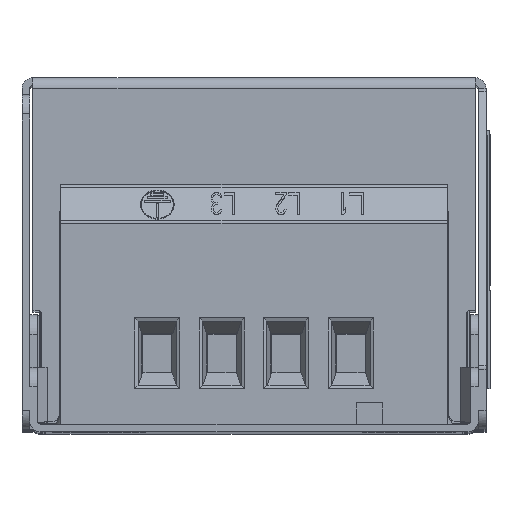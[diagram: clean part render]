
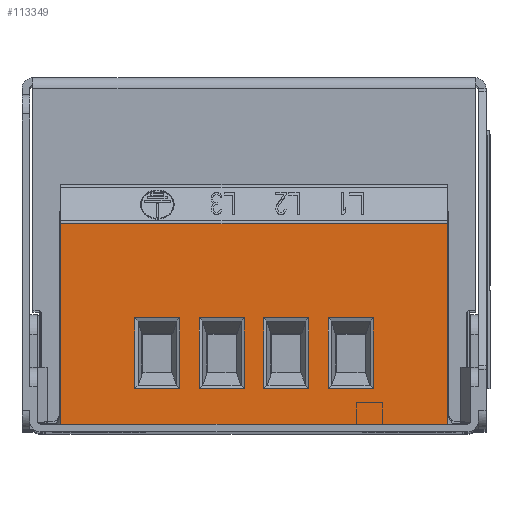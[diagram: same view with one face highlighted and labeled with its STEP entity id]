
A CAD part, top view. The second image highlights one B-rep face of the part: STEP entity #113349.
In plain terms, the highlighted planar face has unit normal (0, 0, 1).
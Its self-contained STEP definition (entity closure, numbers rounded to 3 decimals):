
#32683=DIRECTION('',(0.,-1.,0.));
#32684=VECTOR('',#32683,31.126);
#32685=CARTESIAN_POINT('',(30.,-21.474,76.4));
#32686=LINE('',#32685,#32684);
#32687=DIRECTION('',(-1.,0.,0.));
#32688=VECTOR('',#32687,60.);
#32689=CARTESIAN_POINT('',(30.,-52.6,76.4));
#32690=LINE('',#32689,#32688);
#32691=DIRECTION('',(0.,1.,0.));
#32692=VECTOR('',#32691,31.126);
#32693=CARTESIAN_POINT('',(-30.,-52.6,76.4));
#32694=LINE('',#32693,#32692);
#32695=DIRECTION('',(0.,-1.,0.));
#32696=VECTOR('',#32695,11.);
#32697=CARTESIAN_POINT('',(11.5,-36.1,76.4));
#32698=LINE('',#32697,#32696);
#32699=DIRECTION('',(0.,-1.,0.));
#32700=VECTOR('',#32699,11.);
#32701=CARTESIAN_POINT('',(1.5,-36.1,76.4));
#32702=LINE('',#32701,#32700);
#32703=DIRECTION('',(0.,-1.,0.));
#32704=VECTOR('',#32703,11.);
#32705=CARTESIAN_POINT('',(-8.5,-36.1,76.4));
#32706=LINE('',#32705,#32704);
#32707=DIRECTION('',(0.,-1.,0.));
#32708=VECTOR('',#32707,11.);
#32709=CARTESIAN_POINT('',(-18.5,-36.1,76.4));
#32710=LINE('',#32709,#32708);
#32711=DIRECTION('',(-1.,0.,0.));
#32712=VECTOR('',#32711,60.);
#32713=CARTESIAN_POINT('',(30.,-21.474,76.4));
#32714=LINE('',#32713,#32712);
#36803=DIRECTION('',(1.,0.,0.));
#36804=VECTOR('',#36803,7.);
#36805=CARTESIAN_POINT('',(11.5,-36.1,76.4));
#36806=LINE('',#36805,#36804);
#36811=DIRECTION('',(0.,-1.,0.));
#36812=VECTOR('',#36811,11.);
#36813=CARTESIAN_POINT('',(18.5,-36.1,76.4));
#36814=LINE('',#36813,#36812);
#36823=DIRECTION('',(-1.,0.,0.));
#36824=VECTOR('',#36823,7.);
#36825=CARTESIAN_POINT('',(18.5,-47.1,76.4));
#36826=LINE('',#36825,#36824);
#39717=DIRECTION('',(1.,0.,0.));
#39718=VECTOR('',#39717,7.);
#39719=CARTESIAN_POINT('',(1.5,-36.1,76.4));
#39720=LINE('',#39719,#39718);
#39725=DIRECTION('',(0.,-1.,0.));
#39726=VECTOR('',#39725,11.);
#39727=CARTESIAN_POINT('',(8.5,-36.1,76.4));
#39728=LINE('',#39727,#39726);
#39737=DIRECTION('',(-1.,0.,0.));
#39738=VECTOR('',#39737,7.);
#39739=CARTESIAN_POINT('',(8.5,-47.1,76.4));
#39740=LINE('',#39739,#39738);
#42514=DIRECTION('',(1.,0.,0.));
#42515=VECTOR('',#42514,7.);
#42516=CARTESIAN_POINT('',(-8.5,-36.1,76.4));
#42517=LINE('',#42516,#42515);
#42522=DIRECTION('',(0.,-1.,0.));
#42523=VECTOR('',#42522,11.);
#42524=CARTESIAN_POINT('',(-1.5,-36.1,76.4));
#42525=LINE('',#42524,#42523);
#42534=DIRECTION('',(-1.,0.,0.));
#42535=VECTOR('',#42534,7.);
#42536=CARTESIAN_POINT('',(-1.5,-47.1,76.4));
#42537=LINE('',#42536,#42535);
#46678=DIRECTION('',(1.,0.,0.));
#46679=VECTOR('',#46678,7.);
#46680=CARTESIAN_POINT('',(-18.5,-36.1,76.4));
#46681=LINE('',#46680,#46679);
#46686=DIRECTION('',(0.,-1.,0.));
#46687=VECTOR('',#46686,11.);
#46688=CARTESIAN_POINT('',(-11.5,-36.1,76.4));
#46689=LINE('',#46688,#46687);
#46698=DIRECTION('',(-1.,0.,0.));
#46699=VECTOR('',#46698,7.);
#46700=CARTESIAN_POINT('',(-11.5,-47.1,76.4));
#46701=LINE('',#46700,#46699);
#51214=CARTESIAN_POINT('',(-30.,-21.474,76.4));
#51215=VERTEX_POINT('',#51214);
#51576=CARTESIAN_POINT('',(-30.,-52.6,76.4));
#51578=VERTEX_POINT('',#51576);
#51740=CARTESIAN_POINT('',(-18.5,-36.1,76.4));
#51741=CARTESIAN_POINT('',(-11.5,-36.1,76.4));
#51742=VERTEX_POINT('',#51740);
#51743=VERTEX_POINT('',#51741);
#51744=CARTESIAN_POINT('',(-18.5,-47.1,76.4));
#51745=VERTEX_POINT('',#51744);
#51746=CARTESIAN_POINT('',(-11.5,-47.1,76.4));
#51747=VERTEX_POINT('',#51746);
#52892=CARTESIAN_POINT('',(-8.5,-36.1,76.4));
#52893=CARTESIAN_POINT('',(-1.5,-36.1,76.4));
#52894=VERTEX_POINT('',#52892);
#52895=VERTEX_POINT('',#52893);
#52896=CARTESIAN_POINT('',(-8.5,-47.1,76.4));
#52897=VERTEX_POINT('',#52896);
#52898=CARTESIAN_POINT('',(-1.5,-47.1,76.4));
#52899=VERTEX_POINT('',#52898);
#54256=CARTESIAN_POINT('',(1.5,-36.1,76.4));
#54257=CARTESIAN_POINT('',(8.5,-36.1,76.4));
#54258=VERTEX_POINT('',#54256);
#54259=VERTEX_POINT('',#54257);
#54260=CARTESIAN_POINT('',(1.5,-47.1,76.4));
#54261=VERTEX_POINT('',#54260);
#54262=CARTESIAN_POINT('',(8.5,-47.1,76.4));
#54263=VERTEX_POINT('',#54262);
#55388=CARTESIAN_POINT('',(11.5,-36.1,76.4));
#55389=CARTESIAN_POINT('',(18.5,-36.1,76.4));
#55390=VERTEX_POINT('',#55388);
#55391=VERTEX_POINT('',#55389);
#55392=CARTESIAN_POINT('',(11.5,-47.1,76.4));
#55393=VERTEX_POINT('',#55392);
#55394=CARTESIAN_POINT('',(18.5,-47.1,76.4));
#55395=VERTEX_POINT('',#55394);
#56326=CARTESIAN_POINT('',(30.,-21.474,76.4));
#56328=VERTEX_POINT('',#56326);
#56509=CARTESIAN_POINT('',(30.,-52.6,76.4));
#56511=VERTEX_POINT('',#56509);
#113296=CARTESIAN_POINT('',(-25.,-37.037,76.4));
#113297=DIRECTION('',(0.,0.,-1.));
#113298=DIRECTION('',(0.,-1.,0.));
#113299=AXIS2_PLACEMENT_3D('',#113296,#113297,#113298);
#113300=PLANE('',#113299);
#113302=ORIENTED_EDGE('',*,*,#113301,.F.);
#113303=ORIENTED_EDGE('',*,*,#113227,.T.);
#113304=ORIENTED_EDGE('',*,*,#67169,.T.);
#113306=ORIENTED_EDGE('',*,*,#113305,.T.);
#113307=EDGE_LOOP('',(#113302,#113303,#113304,#113306));
#113308=FACE_OUTER_BOUND('',#113307,.F.);
#113310=ORIENTED_EDGE('',*,*,#113309,.F.);
#113312=ORIENTED_EDGE('',*,*,#113311,.T.);
#113314=ORIENTED_EDGE('',*,*,#113313,.F.);
#113316=ORIENTED_EDGE('',*,*,#113315,.F.);
#113317=EDGE_LOOP('',(#113310,#113312,#113314,#113316));
#113318=FACE_BOUND('',#113317,.F.);
#113320=ORIENTED_EDGE('',*,*,#113319,.F.);
#113322=ORIENTED_EDGE('',*,*,#113321,.T.);
#113324=ORIENTED_EDGE('',*,*,#113323,.F.);
#113326=ORIENTED_EDGE('',*,*,#113325,.F.);
#113327=EDGE_LOOP('',(#113320,#113322,#113324,#113326));
#113328=FACE_BOUND('',#113327,.F.);
#113330=ORIENTED_EDGE('',*,*,#113329,.F.);
#113332=ORIENTED_EDGE('',*,*,#113331,.T.);
#113334=ORIENTED_EDGE('',*,*,#113333,.F.);
#113336=ORIENTED_EDGE('',*,*,#113335,.F.);
#113337=EDGE_LOOP('',(#113330,#113332,#113334,#113336));
#113338=FACE_BOUND('',#113337,.F.);
#113340=ORIENTED_EDGE('',*,*,#113339,.F.);
#113342=ORIENTED_EDGE('',*,*,#113341,.T.);
#113344=ORIENTED_EDGE('',*,*,#113343,.F.);
#113346=ORIENTED_EDGE('',*,*,#113345,.F.);
#113347=EDGE_LOOP('',(#113340,#113342,#113344,#113346));
#113348=FACE_BOUND('',#113347,.F.);
#113349=ADVANCED_FACE('',(#113308,#113318,#113328,#113338,#113348),#113300,.F.);
#67169=EDGE_CURVE('',#56511,#51578,#32690,.T.);
#113227=EDGE_CURVE('',#56328,#56511,#32686,.T.);
#113301=EDGE_CURVE('',#56328,#51215,#32714,.T.);
#113305=EDGE_CURVE('',#51578,#51215,#32694,.T.);
#113309=EDGE_CURVE('',#55390,#55391,#36806,.T.);
#113311=EDGE_CURVE('',#55390,#55393,#32698,.T.);
#113313=EDGE_CURVE('',#55395,#55393,#36826,.T.);
#113315=EDGE_CURVE('',#55391,#55395,#36814,.T.);
#113319=EDGE_CURVE('',#54258,#54259,#39720,.T.);
#113321=EDGE_CURVE('',#54258,#54261,#32702,.T.);
#113323=EDGE_CURVE('',#54263,#54261,#39740,.T.);
#113325=EDGE_CURVE('',#54259,#54263,#39728,.T.);
#113329=EDGE_CURVE('',#52894,#52895,#42517,.T.);
#113331=EDGE_CURVE('',#52894,#52897,#32706,.T.);
#113333=EDGE_CURVE('',#52899,#52897,#42537,.T.);
#113335=EDGE_CURVE('',#52895,#52899,#42525,.T.);
#113339=EDGE_CURVE('',#51742,#51743,#46681,.T.);
#113341=EDGE_CURVE('',#51742,#51745,#32710,.T.);
#113343=EDGE_CURVE('',#51747,#51745,#46701,.T.);
#113345=EDGE_CURVE('',#51743,#51747,#46689,.T.);
